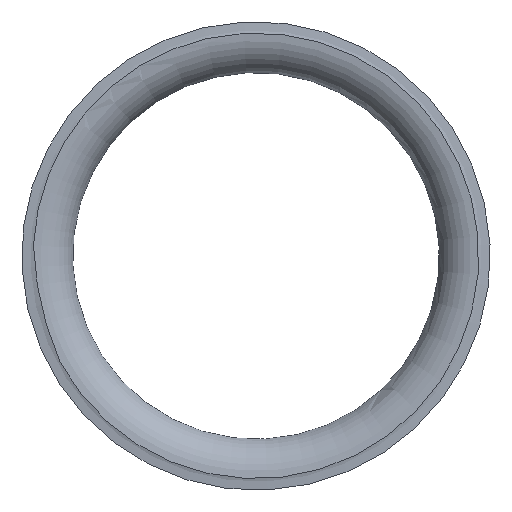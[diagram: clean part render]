
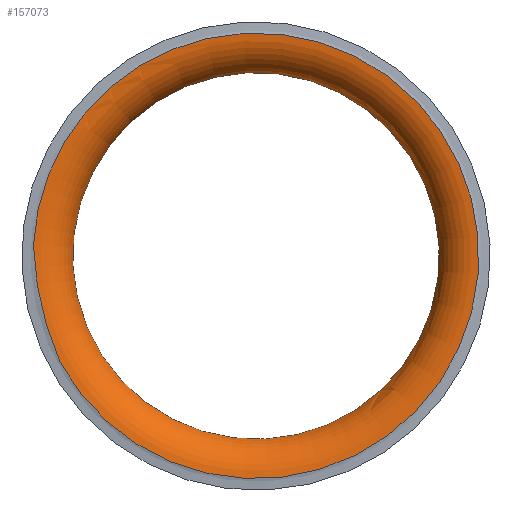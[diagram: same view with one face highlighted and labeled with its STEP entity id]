
A CAD part, top view. The second image highlights one B-rep face of the part: STEP entity #157073.
In plain terms, the highlighted toroidal (fillet/blend) face has major radius 5.468 mm and minor radius 1 mm.
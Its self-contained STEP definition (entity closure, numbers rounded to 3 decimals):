
#6714=B_SPLINE_CURVE_WITH_KNOTS('',3,(#357988,#357989,#357990,#357991),
 .UNSPECIFIED.,.F.,.F.,(4,4),(-3.142,3.142),
 .UNSPECIFIED.);
#21642=FACE_BOUND('',#44750,.T.);
#32241=FACE_OUTER_BOUND('',#44749,.T.);
#44749=EDGE_LOOP('',(#141934));
#44750=EDGE_LOOP('',(#141935,#141936));
#60814=CIRCLE('',#184083,4.5);
#60815=CIRCLE('',#184084,5.468);
#74112=VERTEX_POINT('',#357007);
#74206=VERTEX_POINT('',#357986);
#74212=VERTEX_POINT('',#358081);
#96751=EDGE_CURVE('',#74206,#74112,#6714,.T.);
#96763=EDGE_CURVE('',#74212,#74212,#60814,.T.);
#96764=EDGE_CURVE('',#74206,#74112,#60815,.T.);
#141934=ORIENTED_EDGE('',*,*,#96763,.F.);
#141935=ORIENTED_EDGE('',*,*,#96751,.F.);
#141936=ORIENTED_EDGE('',*,*,#96764,.T.);
#146442=TOROIDAL_SURFACE('',#184082,5.468,1.);
#157073=ADVANCED_FACE('',(#32241,#21642),#146442,.F.);
#184082=AXIS2_PLACEMENT_3D('',#358080,#241064,#241065);
#184083=AXIS2_PLACEMENT_3D('',#358082,#241066,#241067);
#184084=AXIS2_PLACEMENT_3D('',#358083,#241068,#241069);
#241064=DIRECTION('center_axis',(0.,0.,
-1.));
#241065=DIRECTION('ref_axis',(-0.223,0.975,0.));
#241066=DIRECTION('center_axis',(0.,0.,
-1.));
#241067=DIRECTION('ref_axis',(0.223,-0.975,0.));
#241068=DIRECTION('center_axis',(0.,0.,
-1.));
#241069=DIRECTION('ref_axis',(-0.223,0.975,0.));
#357007=CARTESIAN_POINT('',(-34.256,-9.315,14.5));
#357986=CARTESIAN_POINT('',(-34.905,-6.47,14.5));
#357988=CARTESIAN_POINT('Ctrl Pts',(-34.905,-6.47,
14.5));
#357989=CARTESIAN_POINT('Ctrl Pts',(-34.875,-7.42,
14.5));
#357990=CARTESIAN_POINT('Ctrl Pts',(-34.641,-8.446,
14.5));
#357991=CARTESIAN_POINT('Ctrl Pts',(-34.256,-9.315,
14.5));
#358080=CARTESIAN_POINT('Origin',(-29.443,-6.72,13.5));
#358081=CARTESIAN_POINT('',(-30.444,-2.333,13.75));
#358082=CARTESIAN_POINT('Origin',(-29.443,-6.72,13.75));
#358083=CARTESIAN_POINT('Origin',(-29.443,-6.72,14.5));
